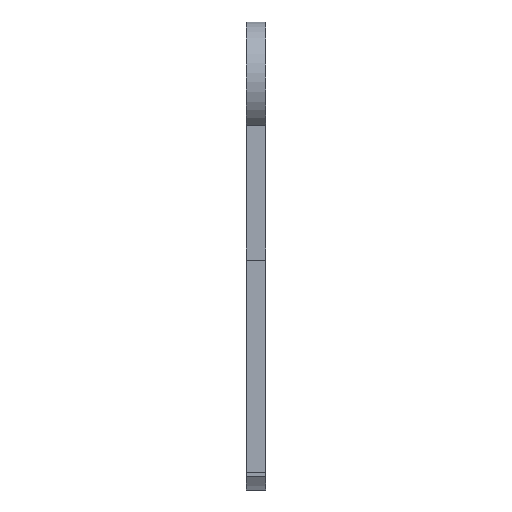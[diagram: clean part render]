
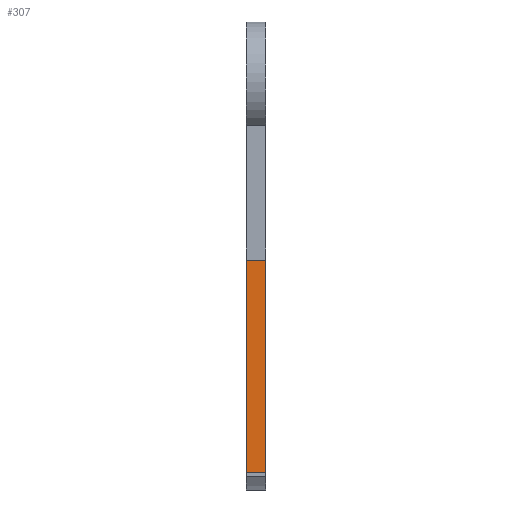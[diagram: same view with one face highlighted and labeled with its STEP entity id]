
A CAD part, left-side view. The second image highlights one B-rep face of the part: STEP entity #307.
In plain terms, the highlighted planar face has unit normal (-1, 0, 0).
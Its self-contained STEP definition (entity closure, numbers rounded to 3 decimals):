
#13 = ORIENTED_EDGE ( 'NONE', *, *, #829, .F. ) ;
#24 = VERTEX_POINT ( 'NONE', #786 ) ;
#63 = EDGE_CURVE ( 'NONE', #705, #24, #182, .T. ) ;
#75 = CARTESIAN_POINT ( 'NONE',  ( 9.35, 1., -19.95 ) ) ;
#149 = DIRECTION ( 'NONE',  ( 0., -1., 0. ) ) ;
#181 = VERTEX_POINT ( 'NONE', #770 ) ;
#182 = LINE ( 'NONE', #820, #821 ) ;
#184 = VERTEX_POINT ( 'NONE', #622 ) ;
#190 = LINE ( 'NONE', #748, #788 ) ;
#193 = ORIENTED_EDGE ( 'NONE', *, *, #838, .T. ) ;
#234 = EDGE_CURVE ( 'NONE', #181, #24, #371, .T. ) ;
#259 = AXIS2_PLACEMENT_3D ( 'NONE', #931, #859, #961 ) ;
#272 = DIRECTION ( 'NONE',  ( 0., 0., -1. ) ) ;
#281 = VECTOR ( 'NONE', #975, 1000. ) ;
#307 = ADVANCED_FACE ( 'NONE', ( #536 ), #856, .T. ) ;
#355 = CARTESIAN_POINT ( 'NONE',  ( 9.35, 0., -9.15 ) ) ;
#371 = LINE ( 'NONE', #75, #541 ) ;
#419 = EDGE_LOOP ( 'NONE', ( #714, #13, #193, #743 ) ) ;
#508 = DIRECTION ( 'NONE',  ( 0., 0., -1. ) ) ;
#536 = FACE_OUTER_BOUND ( 'NONE', #419, .T. ) ;
#541 = VECTOR ( 'NONE', #149, 1000. ) ;
#622 = CARTESIAN_POINT ( 'NONE',  ( 9.35, 1., -9.15 ) ) ;
#659 = CARTESIAN_POINT ( 'NONE',  ( 9.35, 1., -9.15 ) ) ;
#705 = VERTEX_POINT ( 'NONE', #355 ) ;
#714 = ORIENTED_EDGE ( 'NONE', *, *, #63, .F. ) ;
#733 = LINE ( 'NONE', #659, #281 ) ;
#743 = ORIENTED_EDGE ( 'NONE', *, *, #234, .T. ) ;
#748 = CARTESIAN_POINT ( 'NONE',  ( 9.35, 1., 0. ) ) ;
#770 = CARTESIAN_POINT ( 'NONE',  ( 9.35, 1., -19.95 ) ) ;
#786 = CARTESIAN_POINT ( 'NONE',  ( 9.35, 0., -19.95 ) ) ;
#788 = VECTOR ( 'NONE', #508, 1000. ) ;
#820 = CARTESIAN_POINT ( 'NONE',  ( 9.35, 0., 0. ) ) ;
#821 = VECTOR ( 'NONE', #272, 1000. ) ;
#829 = EDGE_CURVE ( 'NONE', #184, #705, #733, .T. ) ;
#838 = EDGE_CURVE ( 'NONE', #184, #181, #190, .T. ) ;
#856 = PLANE ( 'NONE',  #259 ) ;
#859 = DIRECTION ( 'NONE',  ( -1., 0., 0. ) ) ;
#931 = CARTESIAN_POINT ( 'NONE',  ( 9.35, 1., 0. ) ) ;
#961 = DIRECTION ( 'NONE',  ( 0., 0., 1. ) ) ;
#975 = DIRECTION ( 'NONE',  ( 0., -1., 0. ) ) ;
